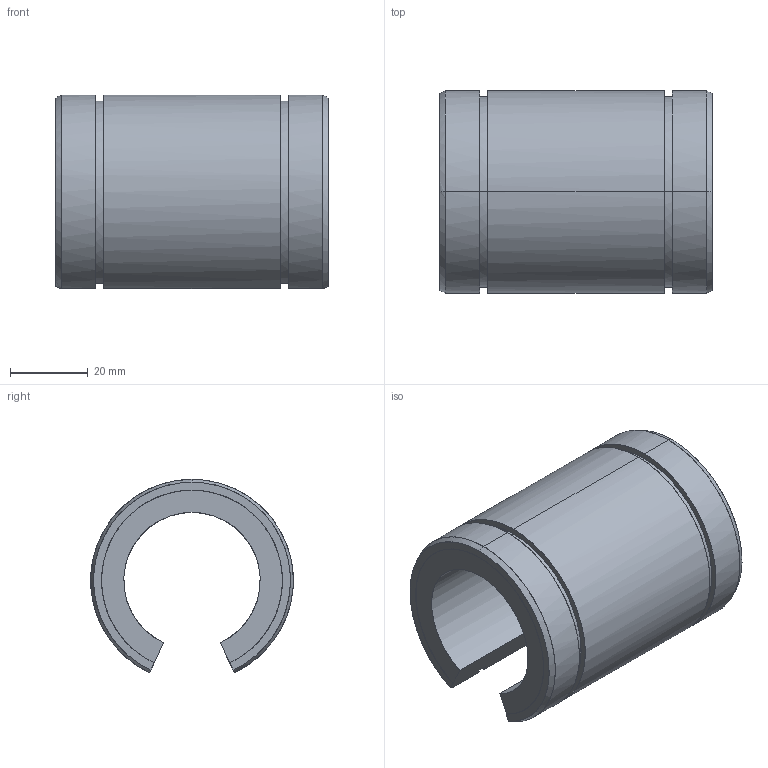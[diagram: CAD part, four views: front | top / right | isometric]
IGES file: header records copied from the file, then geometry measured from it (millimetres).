
Global section: file name: No Iges File Name specified; native system: AutoDesk Inventor R10; preprocessor: AutoDesk Inventor Iges Exporter R10; author: No Author specified; organization: No Organization specified; date: 20101208.113235; units: millimetre
Bounding box: 70 x 51.95 x 49.63 mm (x, y, z)
Surface area: 20332 mm2 (no closed solid volume)
Topology: 0 solids, 0 shells, 30 faces, 252 edges, 252 vertices
Faces by surface type: bspline 30
